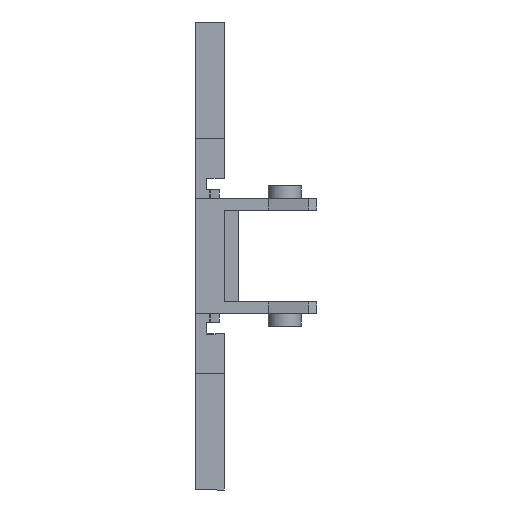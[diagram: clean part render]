
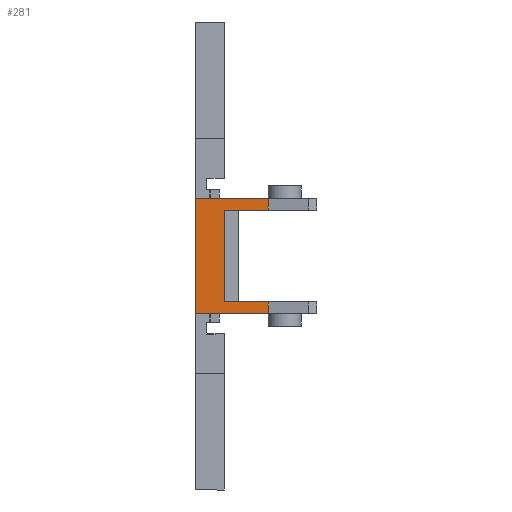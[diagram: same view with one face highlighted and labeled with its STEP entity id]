
A CAD part, front view. The second image highlights one B-rep face of the part: STEP entity #281.
In plain terms, the highlighted planar face has unit normal (0, -1, 0).
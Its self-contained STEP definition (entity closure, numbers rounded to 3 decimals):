
#25 = CARTESIAN_POINT ( 'NONE',  ( 12.5, -16.55, 5.9 ) ) ;
#48 = DIRECTION ( 'NONE',  ( 1., 0., 0. ) ) ;
#68 = DIRECTION ( 'NONE',  ( 0., 0., -1. ) ) ;
#77 = DIRECTION ( 'NONE',  ( 0., 0., -1. ) ) ;
#83 = CARTESIAN_POINT ( 'NONE',  ( 7.523, -16.55, 67.733 ) ) ;
#146 = CARTESIAN_POINT ( 'NONE',  ( 3., -16.55, -5.9 ) ) ;
#148 = CARTESIAN_POINT ( 'NONE',  ( 12.5, -16.55, 4.7 ) ) ;
#207 = CARTESIAN_POINT ( 'NONE',  ( 7.523, -16.55, 67.733 ) ) ;
#210 = DIRECTION ( 'NONE',  ( -1., 0., 0. ) ) ;
#249 = DIRECTION ( 'NONE',  ( 0., 0., -1. ) ) ;
#281 = ADVANCED_FACE ( 'NONE', ( #1833 ), #2590, .T. ) ;
#485 = EDGE_CURVE ( 'NONE', #2469, #2502, #3013, .T. ) ;
#487 = AXIS2_PLACEMENT_3D ( 'NONE', #2589, #2592, #2593 ) ;
#508 = EDGE_CURVE ( 'NONE', #2476, #2467, #3047, .T. ) ;
#564 = EDGE_CURVE ( 'NONE', #2476, #2482, #3068, .T. ) ;
#824 = CARTESIAN_POINT ( 'NONE',  ( 1.5, -16.55, -5.9 ) ) ;
#825 = DIRECTION ( 'NONE',  ( 1., 0., 0. ) ) ;
#1045 = CARTESIAN_POINT ( 'NONE',  ( 0., -16.55, 5.9 ) ) ;
#1047 = CARTESIAN_POINT ( 'NONE',  ( 7.523, -16.55, -4.7 ) ) ;
#1054 = CARTESIAN_POINT ( 'NONE',  ( 7.523, -16.55, 5.9 ) ) ;
#1060 = CARTESIAN_POINT ( 'NONE',  ( 7.523, -16.55, 4.7 ) ) ;
#1066 = CARTESIAN_POINT ( 'NONE',  ( 0., -16.55, -5.9 ) ) ;
#1067 = CARTESIAN_POINT ( 'NONE',  ( 3., -16.55, 4.7 ) ) ;
#1068 = CARTESIAN_POINT ( 'NONE',  ( 3., -16.55, -4.7 ) ) ;
#1080 = CARTESIAN_POINT ( 'NONE',  ( 7.523, -16.55, -5.9 ) ) ;
#1127 = EDGE_CURVE ( 'NONE', #2489, #2482, #3177, .T. ) ;
#1142 = EDGE_CURVE ( 'NONE', #2489, #2490, #3209, .T. ) ;
#1151 = EDGE_CURVE ( 'NONE', #2467, #2488, #3226, .T. ) ;
#1154 = EDGE_CURVE ( 'NONE', #2490, #2469, #3232, .T. ) ;
#1274 = EDGE_CURVE ( 'NONE', #2488, #2502, #3450, .T. ) ;
#1833 = FACE_OUTER_BOUND ( 'NONE', #2060, .T. ) ;
#1993 = ORIENTED_EDGE ( 'NONE', *, *, #1154, .F. ) ;
#2005 = ORIENTED_EDGE ( 'NONE', *, *, #1274, .T. ) ;
#2049 = ORIENTED_EDGE ( 'NONE', *, *, #1142, .F. ) ;
#2054 = ORIENTED_EDGE ( 'NONE', *, *, #485, .F. ) ;
#2060 = EDGE_LOOP ( 'NONE', ( #2049, #2199, #2127, #2197, #2095, #2005, #2054, #1993 ) ) ;
#2095 = ORIENTED_EDGE ( 'NONE', *, *, #1151, .T. ) ;
#2127 = ORIENTED_EDGE ( 'NONE', *, *, #564, .F. ) ;
#2197 = ORIENTED_EDGE ( 'NONE', *, *, #508, .T. ) ;
#2199 = ORIENTED_EDGE ( 'NONE', *, *, #1127, .T. ) ;
#2213 = DIRECTION ( 'NONE',  ( 0., 0., -1. ) ) ;
#2240 = DIRECTION ( 'NONE',  ( 1., 0., 0. ) ) ;
#2242 = CARTESIAN_POINT ( 'NONE',  ( 12.5, -16.55, -4.7 ) ) ;
#2248 = CARTESIAN_POINT ( 'NONE',  ( 0., -16.55, 15.37 ) ) ;
#2467 = VERTEX_POINT ( 'NONE', #1045 ) ;
#2469 = VERTEX_POINT ( 'NONE', #1047 ) ;
#2476 = VERTEX_POINT ( 'NONE', #1054 ) ;
#2482 = VERTEX_POINT ( 'NONE', #1060 ) ;
#2488 = VERTEX_POINT ( 'NONE', #1066 ) ;
#2489 = VERTEX_POINT ( 'NONE', #1067 ) ;
#2490 = VERTEX_POINT ( 'NONE', #1068 ) ;
#2502 = VERTEX_POINT ( 'NONE', #1080 ) ;
#2589 = CARTESIAN_POINT ( 'NONE',  ( 12.5, -16.55, -5.9 ) ) ;
#2590 = PLANE ( 'NONE',  #487 ) ;
#2592 = DIRECTION ( 'NONE',  ( 0., -1., 0. ) ) ;
#2593 = DIRECTION ( 'NONE',  ( -1., 0., 0. ) ) ;
#3013 = LINE ( 'NONE', #83, #3018 ) ;
#3018 = VECTOR ( 'NONE', #68, 1000. ) ;
#3047 = LINE ( 'NONE', #25, #3048 ) ;
#3048 = VECTOR ( 'NONE', #210, 1000. ) ;
#3068 = LINE ( 'NONE', #207, #3092 ) ;
#3092 = VECTOR ( 'NONE', #249, 1000. ) ;
#3177 = LINE ( 'NONE', #148, #3181 ) ;
#3181 = VECTOR ( 'NONE', #48, 1000. ) ;
#3209 = LINE ( 'NONE', #146, #3210 ) ;
#3210 = VECTOR ( 'NONE', #77, 1000. ) ;
#3226 = LINE ( 'NONE', #2248, #3227 ) ;
#3227 = VECTOR ( 'NONE', #2213, 1000. ) ;
#3232 = LINE ( 'NONE', #2242, #3233 ) ;
#3233 = VECTOR ( 'NONE', #2240, 1000. ) ;
#3450 = LINE ( 'NONE', #824, #3451 ) ;
#3451 = VECTOR ( 'NONE', #825, 1000. ) ;
